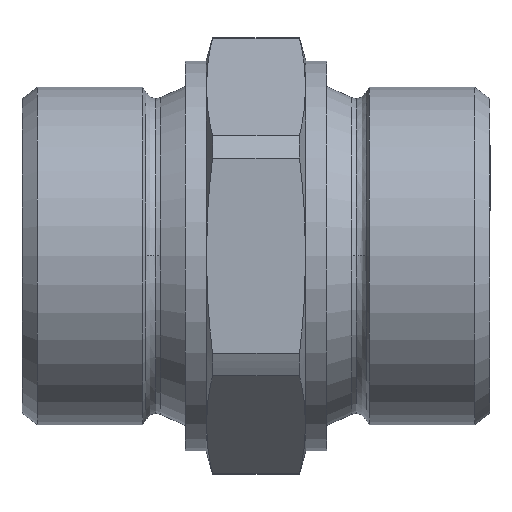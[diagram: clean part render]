
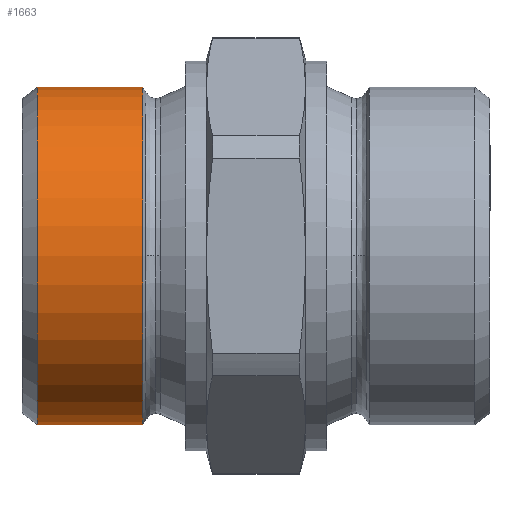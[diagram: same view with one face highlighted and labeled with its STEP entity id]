
A CAD part, top view. The second image highlights one B-rep face of the part: STEP entity #1663.
In plain terms, the highlighted cylindrical face has radius 23.81 mm (diameter 47.62 mm), a partial arc.
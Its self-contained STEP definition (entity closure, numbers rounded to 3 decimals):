
#997=CARTESIAN_POINT('',(0.,-23.81,30.863));
#998=VERTEX_POINT('',#997);
#999=CARTESIAN_POINT('',(0.,-23.81,15.984));
#1000=VERTEX_POINT('',#999);
#1001=CARTESIAN_POINT('',(0.,-23.81,30.863));
#1002=DIRECTION('',(0.0,0.0,-1.0));
#1003=VECTOR('',#1002,14.88);
#1004=LINE('',#1001,#1003);
#1005=EDGE_CURVE('',#998,#1000,#1004,.T.);
#1007=CARTESIAN_POINT('',(0.,23.81,30.863));
#1008=VERTEX_POINT('',#1007);
#1016=CARTESIAN_POINT('',(0.,23.81,15.984));
#1017=VERTEX_POINT('',#1016);
#1018=CARTESIAN_POINT('',(0.,23.81,15.984));
#1019=DIRECTION('',(0.0,0.0,1.0));
#1020=VECTOR('',#1019,14.88);
#1021=LINE('',#1018,#1020);
#1022=EDGE_CURVE('',#1017,#1008,#1021,.T.);
#1461=CARTESIAN_POINT('',(0.,0.,15.984));
#1462=DIRECTION('',(0.0,0.0,-1.0));
#1463=DIRECTION('',(0.0,-1.0,0.0));
#1464=AXIS2_PLACEMENT_3D('',#1461,#1462,#1463);
#1465=CIRCLE('',#1464,23.81);
#1466=EDGE_CURVE('',#1017,#1000,#1465,.T.);
#1640=CARTESIAN_POINT('',(0.,0.,30.863));
#1641=DIRECTION('',(0.0,0.0,-1.0));
#1642=DIRECTION('',(0.0,-1.0,0.0));
#1643=AXIS2_PLACEMENT_3D('',#1640,#1641,#1642);
#1644=CIRCLE('',#1643,23.81);
#1645=EDGE_CURVE('',#1008,#998,#1644,.T.);
#1652=CARTESIAN_POINT('',(0.,0.,23.424));
#1653=DIRECTION('',(0.,0.,-1.0));
#1654=DIRECTION('',(0.0,-1.0,0.0));
#1655=AXIS2_PLACEMENT_3D('',#1652,#1653,#1654);
#1656=CYLINDRICAL_SURFACE('',#1655,23.81);
#1657=ORIENTED_EDGE('',*,*,#1005,.T.);
#1658=ORIENTED_EDGE('',*,*,#1466,.F.);
#1659=ORIENTED_EDGE('',*,*,#1022,.T.);
#1660=ORIENTED_EDGE('',*,*,#1645,.T.);
#1661=EDGE_LOOP('',(#1657,#1658,#1659,#1660));
#1662=FACE_OUTER_BOUND('',#1661,.T.);
#1663=ADVANCED_FACE('',(#1662),#1656,.T.);
